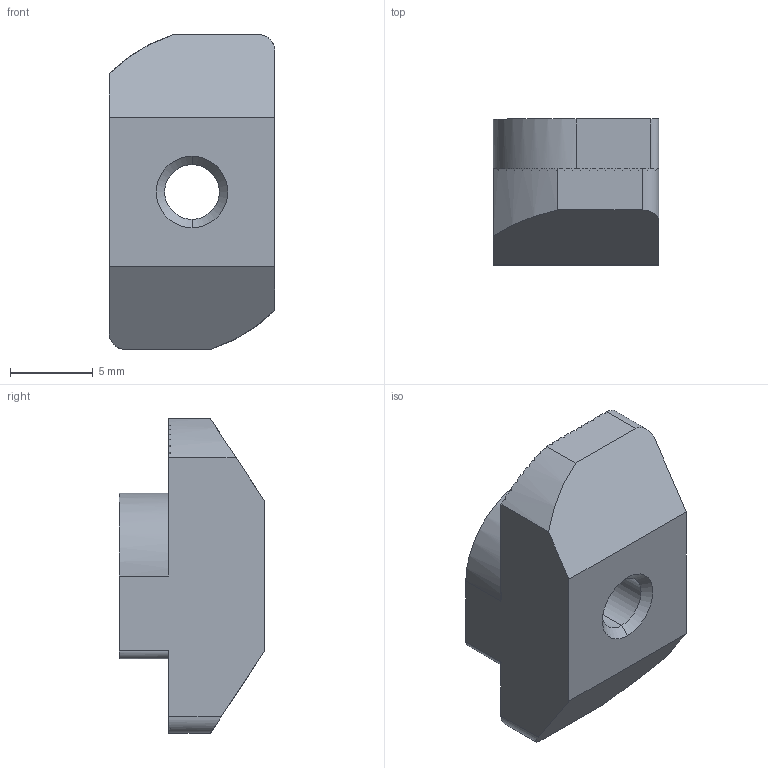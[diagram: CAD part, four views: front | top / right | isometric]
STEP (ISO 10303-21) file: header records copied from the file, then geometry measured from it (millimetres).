
FILE_DESCRIPTION (( 'STEP AP203' ), '1' );
FILE_NAME ('LIMA-RN4-104545.STEP', '2018-03-15T12:23:43', ( '' ), ( '' ), 'SwSTEP 2.0', 'SolidWorks 2013', '' );
FILE_SCHEMA (( 'CONFIG_CONTROL_DESIGN' ));
Length unit declared in the file: millimetre
Products named in the file (1): LIMA-RN4-104545
Bounding box: 10 x 8.8 x 19 mm (x, y, z)
Volume: 1096.1 mm3; surface area: 799.8 mm2
Topology: 1 solids, 1 shells, 146 faces, 428 edges, 284 vertices
Faces by surface type: plane 132, cylinder 10, cone 4
Entity records: 4882 total; most frequent: CARTESIAN_POINT 1123, ORIENTED_EDGE 856, DIRECTION 695, EDGE_CURVE 428, VERTEX_POINT 284, LINE 279, VECTOR 279, AXIS2_PLACEMENT_3D 208
